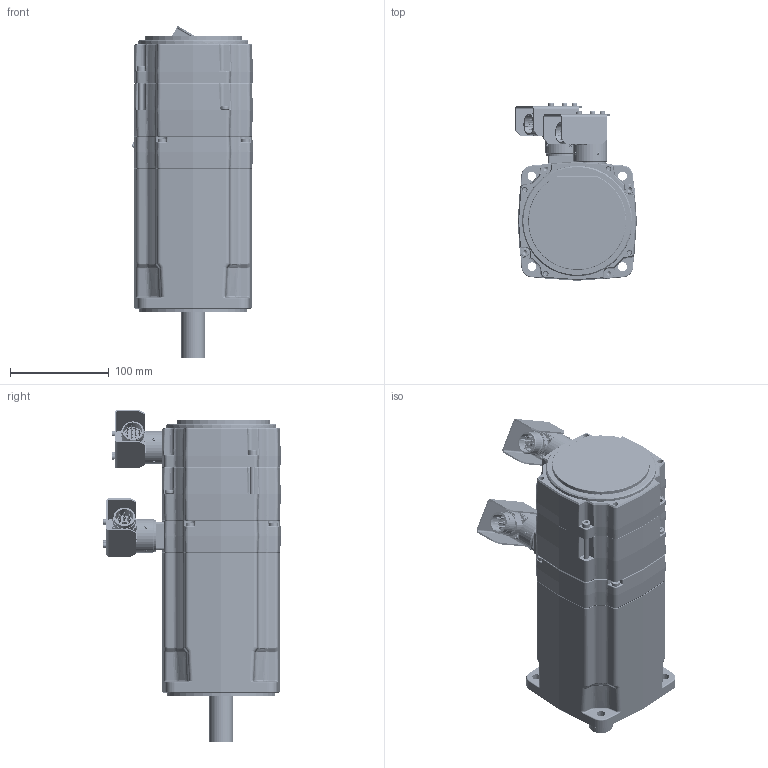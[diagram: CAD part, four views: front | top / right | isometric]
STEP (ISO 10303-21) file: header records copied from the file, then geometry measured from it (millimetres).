
FILE_DESCRIPTION((''),'2;1');
FILE_NAME('EY630EAR7310_ASM','2016-11-14T',('pf73167'),(''),'PRO/ENGINEER BY PARAMETRIC TECHNOLOGY CORPORATION, 2009400','PRO/ENGINEER BY PARAMETRIC TECHNOLOGY CORPORATION, 2009400','');
FILE_SCHEMA(('CONFIG_CONTROL_DESIGN'));
Length unit declared in the file: millimetre
Products named in the file (50): 344187P0020; 5116P1315; 301026P0030; 1150P0412; 344185P0004; 344186R0004_ASM; 5116P1319; 1645P0018; 1711P0019; 344229R3000_ASM; 344183P0005; 344184R3008_ASM; 1143P0515; 1613P0005; 1613P0023; 1317P0304; 5320P0028; 5340P0002; 283154_06_P1CF102_AF0; 283154_06_P1F501_AF0; 283154P0038_ASM; 1821P0017; 1143P0405; 344191P0001; 1613P0034; 1613P0035; 282280P0012; 220005P1002; 344509P0001; 1643P0104; 344191P0021; 1150P0523; 345359P0002; 5340P0124; 5340P0125; 1150P0204; 345359P0001; 1170P0042; 220132P1010_0001; 220132P1010_0002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
Assembly tree (119 placements, depth 4):
  EY630EAR7310_ASM
    344187P0020
    5116P1315
    301026P0030
    1150P0412  x3
    344186R0004_ASM
      344185P0004
    5116P1319
    1645P0018  x2
    1711P0019
    344184R3008_ASM
      344229R3000_ASM
      344183P0005
    1143P0515  x6
    1613P0005  x3
    1613P0023  x2
    1317P0304
    5320P0028
    5340P0002  x2
    283154P0038_ASM
      283154_06_P1CF102_AF0
      283154_06_P1F501_AF0
    1821P0017
    1143P0405  x7
    344191P0001
    1613P0034
    1613P0035
    282280P0012
    220005P1002  x2
    344509P0001
    1643P0104  x3
    344191P0021
    1150P0523  x2
    345359R1010_ASM
      345359P0002
      5340P0124
      5340P0125
      1150P0204  x8
      345359P0001
      1170P0042  x4
      220132P1010_ASM
        220132P1010_0001
        220132P1010_0002
        220132P0111  x4
        220132P0120  x3
      345359P0003
      1150P0305  x3
    345359R1020_ASM
      345359P0002
      5340P0124
      5340P0125
      1150P0204  x8
      345359P0001
      1170P0042  x4
      220132P1020
      220132P0112  x12
      345359P0003
      1150P0305  x3
Bounding box: 123.48 x 180.2 x 337.04 mm (x, y, z)
Volume: 1487256.7 mm3; surface area: 527137.5 mm2
Topology: 118 solids, 119 shells, 6131 faces, 14370 edges, 8715 vertices
Faces by surface type: plane 2160, cylinder 1779, cone 1134, bspline 696, torus 331, sphere 31
Entity records: 157815 total; most frequent: CARTESIAN_POINT 58325, ORIENTED_EDGE 21048, DIRECTION 19592, EDGE_CURVE 10524, AXIS2_PLACEMENT_3D 7149, VERTEX_POINT 6534, VECTOR 5294, LINE 5294
